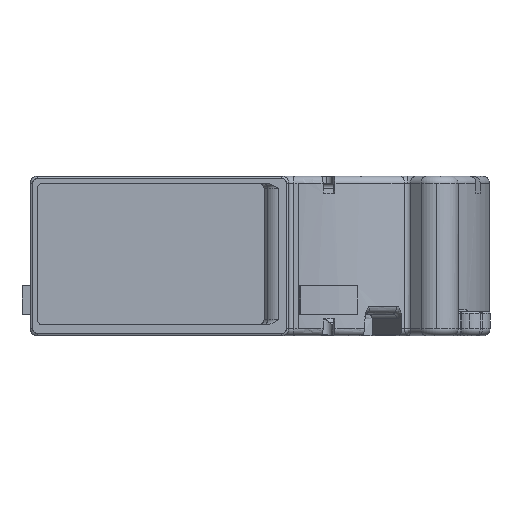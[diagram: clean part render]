
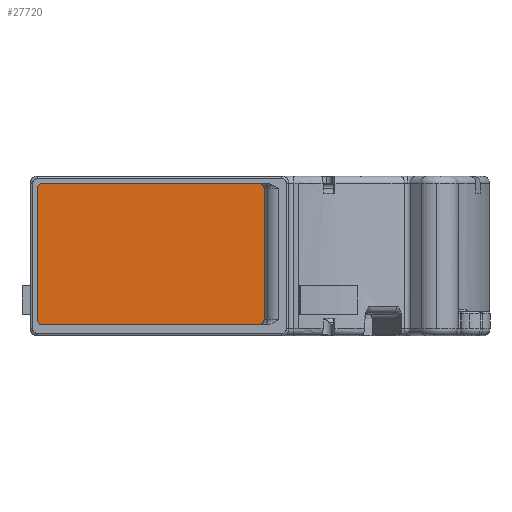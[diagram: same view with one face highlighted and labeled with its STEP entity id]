
A CAD part, left-side view. The second image highlights one B-rep face of the part: STEP entity #27720.
In plain terms, the highlighted planar face has unit normal (-1, 0, 0).
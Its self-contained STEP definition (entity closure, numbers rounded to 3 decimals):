
#17 = AXIS2_PLACEMENT_3D ( 'NONE', #13779, #27766, #11222 ) ;
#21 = EDGE_CURVE ( 'NONE', #10485, #21998, #295, .T. ) ;
#295 = LINE ( 'NONE', #8767, #14932 ) ;
#603 = EDGE_CURVE ( 'NONE', #22994, #21998, #7367, .T. ) ;
#1259 = ORIENTED_EDGE ( 'NONE', *, *, #29568, .F. ) ;
#1515 = CARTESIAN_POINT ( 'NONE',  ( -48., 6.445, 2.3 ) ) ;
#1634 = VERTEX_POINT ( 'NONE', #33009 ) ;
#2202 = CARTESIAN_POINT ( 'NONE',  ( -48., 51., 30.5 ) ) ;
#2417 = VERTEX_POINT ( 'NONE', #15127 ) ;
#2569 = CARTESIAN_POINT ( 'NONE',  ( -48., 5.149, 3.3 ) ) ;
#3385 = DIRECTION ( 'NONE',  ( 0., -1., 0. ) ) ;
#4312 =( BOUNDED_CURVE ( )  B_SPLINE_CURVE ( 3, ( #12209, #34261, #6808, #26085 ),
 .UNSPECIFIED., .F., .F. ) 
 B_SPLINE_CURVE_WITH_KNOTS ( ( 4, 4 ),
 ( 1.571, 3.142 ),
 .UNSPECIFIED. ) 
 CURVE ( )  GEOMETRIC_REPRESENTATION_ITEM ( )  RATIONAL_B_SPLINE_CURVE ( ( 1., 0.805, 0.805, 1. ) ) 
 REPRESENTATION_ITEM ( '' )  );
#4639 = CARTESIAN_POINT ( 'NONE',  ( -48., 52., 2.3 ) ) ;
#4879 = CARTESIAN_POINT ( 'NONE',  ( -48., 5.149, 3.3 ) ) ;
#4983 = DIRECTION ( 'NONE',  ( 0., 0., 1. ) ) ;
#6808 = CARTESIAN_POINT ( 'NONE',  ( -48., 5.149, 31.086 ) ) ;
#7367 =( BOUNDED_CURVE ( )  B_SPLINE_CURVE ( 3, ( #2569, #7970, #13498, #21809 ),
 .UNSPECIFIED., .F., .F. ) 
 B_SPLINE_CURVE_WITH_KNOTS ( ( 4, 4 ),
 ( 3.142, 4.712 ),
 .UNSPECIFIED. ) 
 CURVE ( )  GEOMETRIC_REPRESENTATION_ITEM ( )  RATIONAL_B_SPLINE_CURVE ( ( 1., 0.805, 0.805, 1. ) ) 
 REPRESENTATION_ITEM ( '' )  );
#7970 = CARTESIAN_POINT ( 'NONE',  ( -48., 5.149, 2.714 ) ) ;
#8501 = VECTOR ( 'NONE', #13659, 1000. ) ;
#8767 = CARTESIAN_POINT ( 'NONE',  ( -48., 52., 2.3 ) ) ;
#9881 = EDGE_CURVE ( 'NONE', #35680, #1634, #23546, .T. ) ;
#10115 = DIRECTION ( 'NONE',  ( 0., 0., -1. ) ) ;
#10485 = VERTEX_POINT ( 'NONE', #31208 ) ;
#10594 = ORIENTED_EDGE ( 'NONE', *, *, #35192, .T. ) ;
#10839 = AXIS2_PLACEMENT_3D ( 'NONE', #2202, #21446, #4983 ) ;
#11124 = VERTEX_POINT ( 'NONE', #12842 ) ;
#11222 = DIRECTION ( 'NONE',  ( 0., 0., 1. ) ) ;
#12209 = CARTESIAN_POINT ( 'NONE',  ( -48., 6.445, 31.5 ) ) ;
#12842 = CARTESIAN_POINT ( 'NONE',  ( -48., 51., 31.5 ) ) ;
#13498 = CARTESIAN_POINT ( 'NONE',  ( -48., 5.685, 2.3 ) ) ;
#13659 = DIRECTION ( 'NONE',  ( 0., 1., 0. ) ) ;
#13686 = EDGE_CURVE ( 'NONE', #2417, #22994, #17295, .T. ) ;
#13779 = CARTESIAN_POINT ( 'NONE',  ( -48., 0., 0. ) ) ;
#14222 = CARTESIAN_POINT ( 'NONE',  ( -48., 51., 3.3 ) ) ;
#14932 = VECTOR ( 'NONE', #3385, 1000. ) ;
#15084 = AXIS2_PLACEMENT_3D ( 'NONE', #14222, #33500, #16959 ) ;
#15127 = CARTESIAN_POINT ( 'NONE',  ( -48., 5.149, 30.5 ) ) ;
#15715 = ORIENTED_EDGE ( 'NONE', *, *, #21168, .F. ) ;
#16647 = PLANE ( 'NONE',  #17 ) ;
#16959 = DIRECTION ( 'NONE',  ( 0., 0., 1. ) ) ;
#17295 = LINE ( 'NONE', #30068, #25512 ) ;
#19061 = FACE_OUTER_BOUND ( 'NONE', #33665, .T. ) ;
#19625 = CIRCLE ( 'NONE', #15084, 1. ) ;
#19853 = CARTESIAN_POINT ( 'NONE',  ( -48., 52., 30.5 ) ) ;
#20436 = ORIENTED_EDGE ( 'NONE', *, *, #21, .T. ) ;
#21071 = ORIENTED_EDGE ( 'NONE', *, *, #13686, .F. ) ;
#21168 = EDGE_CURVE ( 'NONE', #35680, #11124, #26139, .T. ) ;
#21446 = DIRECTION ( 'NONE',  ( 1., 0., 0. ) ) ;
#21809 = CARTESIAN_POINT ( 'NONE',  ( -48., 6.445, 2.3 ) ) ;
#21998 = VERTEX_POINT ( 'NONE', #1515 ) ;
#22858 = ORIENTED_EDGE ( 'NONE', *, *, #603, .F. ) ;
#22994 = VERTEX_POINT ( 'NONE', #4879 ) ;
#23546 = LINE ( 'NONE', #4639, #30040 ) ;
#24213 = EDGE_CURVE ( 'NONE', #10485, #1634, #19625, .T. ) ;
#24595 = CARTESIAN_POINT ( 'NONE',  ( -48., 52., 31.5 ) ) ;
#24605 = DIRECTION ( 'NONE',  ( 0., 0., -1. ) ) ;
#25512 = VECTOR ( 'NONE', #24605, 1000. ) ;
#26085 = CARTESIAN_POINT ( 'NONE',  ( -48., 5.149, 30.5 ) ) ;
#26139 = CIRCLE ( 'NONE', #10839, 1. ) ;
#26406 = ORIENTED_EDGE ( 'NONE', *, *, #24213, .F. ) ;
#27488 = VERTEX_POINT ( 'NONE', #34741 ) ;
#27720 = ADVANCED_FACE ( 'NONE', ( #19061 ), #16647, .T. ) ;
#27766 = DIRECTION ( 'NONE',  ( -1., 0., 0. ) ) ;
#29568 = EDGE_CURVE ( 'NONE', #27488, #2417, #4312, .T. ) ;
#30040 = VECTOR ( 'NONE', #10115, 1000. ) ;
#30068 = CARTESIAN_POINT ( 'NONE',  ( -48., 5.149, 2.3 ) ) ;
#30733 = ORIENTED_EDGE ( 'NONE', *, *, #9881, .T. ) ;
#31208 = CARTESIAN_POINT ( 'NONE',  ( -48., 51., 2.3 ) ) ;
#31368 = LINE ( 'NONE', #24595, #8501 ) ;
#33009 = CARTESIAN_POINT ( 'NONE',  ( -48., 52., 3.3 ) ) ;
#33500 = DIRECTION ( 'NONE',  ( 1., 0., 0. ) ) ;
#33665 = EDGE_LOOP ( 'NONE', ( #26406, #20436, #22858, #21071, #1259, #10594, #15715, #30733 ) ) ;
#34261 = CARTESIAN_POINT ( 'NONE',  ( -48., 5.685, 31.5 ) ) ;
#34741 = CARTESIAN_POINT ( 'NONE',  ( -48., 6.445, 31.5 ) ) ;
#35192 = EDGE_CURVE ( 'NONE', #27488, #11124, #31368, .T. ) ;
#35680 = VERTEX_POINT ( 'NONE', #19853 ) ;
